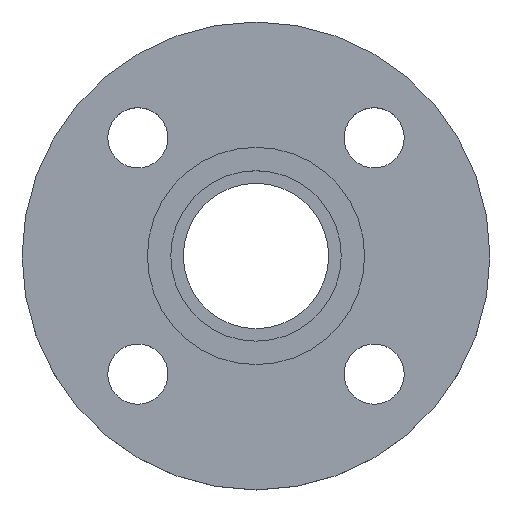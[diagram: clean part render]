
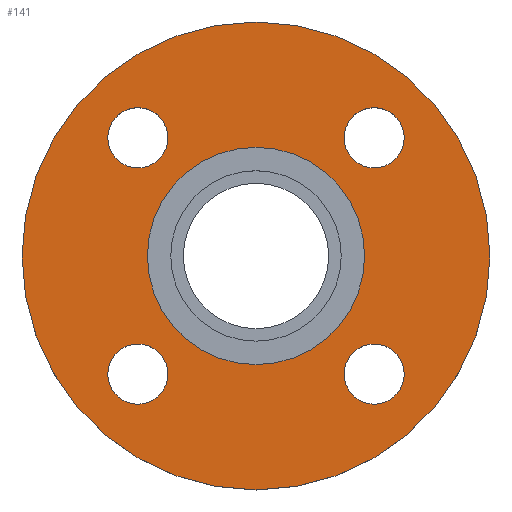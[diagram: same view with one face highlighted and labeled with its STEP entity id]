
A CAD part, top view. The second image highlights one B-rep face of the part: STEP entity #141.
In plain terms, the highlighted planar face has unit normal (0, 0, 1).
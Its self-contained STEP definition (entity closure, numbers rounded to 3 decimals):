
#3 = DIRECTION ( 'NONE',  ( 0., 0., -1. ) ) ;
#10 = PLANE ( 'NONE',  #114 ) ;
#11 = EDGE_CURVE ( 'NONE', #482, #637, #36, .T. ) ;
#12 = VERTEX_POINT ( 'NONE', #260 ) ;
#20 = DIRECTION ( 'NONE',  ( 1., 0., 0. ) ) ;
#23 = CARTESIAN_POINT ( 'NONE',  ( 44.355, -35.355, -4.5 ) ) ;
#32 = VERTEX_POINT ( 'NONE', #45 ) ;
#36 = CIRCLE ( 'NONE', #409, 9. ) ;
#38 = VERTEX_POINT ( 'NONE', #263 ) ;
#43 = DIRECTION ( 'NONE',  ( 1., 0., 0. ) ) ;
#45 = CARTESIAN_POINT ( 'NONE',  ( 70., 0., -4.5 ) ) ;
#51 = CARTESIAN_POINT ( 'NONE',  ( 26.355, 35.355, -4.5 ) ) ;
#53 = EDGE_CURVE ( 'NONE', #32, #12, #370, .T. ) ;
#57 = DIRECTION ( 'NONE',  ( 1., 0., 0. ) ) ;
#59 = FACE_BOUND ( 'NONE', #354, .T. ) ;
#67 = ORIENTED_EDGE ( 'NONE', *, *, #148, .T. ) ;
#71 = ORIENTED_EDGE ( 'NONE', *, *, #450, .F. ) ;
#85 = VERTEX_POINT ( 'NONE', #360 ) ;
#91 = DIRECTION ( 'NONE',  ( 0., 0., -1. ) ) ;
#92 = EDGE_CURVE ( 'NONE', #635, #327, #292, .T. ) ;
#93 = CARTESIAN_POINT ( 'NONE',  ( 0., 0., -4.5 ) ) ;
#104 = EDGE_CURVE ( 'NONE', #470, #38, #270, .T. ) ;
#105 = DIRECTION ( 'NONE',  ( 1., 0., 0. ) ) ;
#107 = CARTESIAN_POINT ( 'NONE',  ( -26.355, -35.355, -4.5 ) ) ;
#110 = FACE_BOUND ( 'NONE', #501, .T. ) ;
#111 = ORIENTED_EDGE ( 'NONE', *, *, #53, .F. ) ;
#114 = AXIS2_PLACEMENT_3D ( 'NONE', #228, #426, #626 ) ;
#117 = CARTESIAN_POINT ( 'NONE',  ( 35.355, -35.355, -4.5 ) ) ;
#120 = VERTEX_POINT ( 'NONE', #221 ) ;
#129 = CARTESIAN_POINT ( 'NONE',  ( -35.355, 35.355, -4.5 ) ) ;
#141 = ADVANCED_FACE ( 'NONE', ( #110, #326, #519, #59, #280, #473 ), #10, .T. ) ;
#148 = EDGE_CURVE ( 'NONE', #327, #635, #305, .T. ) ;
#152 = DIRECTION ( 'NONE',  ( -1., 0., 0. ) ) ;
#154 = AXIS2_PLACEMENT_3D ( 'NONE', #93, #313, #509 ) ;
#157 = DIRECTION ( 'NONE',  ( -1., 0., 0. ) ) ;
#158 = CIRCLE ( 'NONE', #524, 32.5 ) ;
#177 = CARTESIAN_POINT ( 'NONE',  ( 0., 0., -4.5 ) ) ;
#183 = EDGE_LOOP ( 'NONE', ( #195, #584 ) ) ;
#195 = ORIENTED_EDGE ( 'NONE', *, *, #575, .T. ) ;
#211 = AXIS2_PLACEMENT_3D ( 'NONE', #117, #334, #523 ) ;
#220 = DIRECTION ( 'NONE',  ( 1., 0., 0. ) ) ;
#221 = CARTESIAN_POINT ( 'NONE',  ( -44.355, -35.355, -4.5 ) ) ;
#226 = CIRCLE ( 'NONE', #314, 9. ) ;
#228 = CARTESIAN_POINT ( 'NONE',  ( 32.5, 0., -4.5 ) ) ;
#246 = EDGE_CURVE ( 'NONE', #120, #517, #537, .T. ) ;
#254 = CIRCLE ( 'NONE', #329, 70. ) ;
#260 = CARTESIAN_POINT ( 'NONE',  ( -70., 0., -4.5 ) ) ;
#263 = CARTESIAN_POINT ( 'NONE',  ( -44.355, 35.355, -4.5 ) ) ;
#270 = CIRCLE ( 'NONE', #548, 9. ) ;
#280 = FACE_BOUND ( 'NONE', #183, .T. ) ;
#288 = CARTESIAN_POINT ( 'NONE',  ( -35.355, -35.355, -4.5 ) ) ;
#292 = CIRCLE ( 'NONE', #563, 9. ) ;
#299 = CARTESIAN_POINT ( 'NONE',  ( 26.355, -35.355, -4.5 ) ) ;
#305 = CIRCLE ( 'NONE', #211, 9. ) ;
#306 = CIRCLE ( 'NONE', #388, 9. ) ;
#308 = CARTESIAN_POINT ( 'NONE',  ( 35.355, 35.355, -4.5 ) ) ;
#312 = DIRECTION ( 'NONE',  ( 1., 0., 0. ) ) ;
#313 = DIRECTION ( 'NONE',  ( 0., 0., -1. ) ) ;
#314 = AXIS2_PLACEMENT_3D ( 'NONE', #614, #3, #220 ) ;
#324 = CARTESIAN_POINT ( 'NONE',  ( -35.355, -35.355, -4.5 ) ) ;
#326 = FACE_BOUND ( 'NONE', #400, .T. ) ;
#327 = VERTEX_POINT ( 'NONE', #299 ) ;
#329 = AXIS2_PLACEMENT_3D ( 'NONE', #411, #611, #157 ) ;
#334 = DIRECTION ( 'NONE',  ( 0., 0., -1. ) ) ;
#348 = DIRECTION ( 'NONE',  ( 0., 0., -1. ) ) ;
#349 = EDGE_LOOP ( 'NONE', ( #111, #71 ) ) ;
#354 = EDGE_LOOP ( 'NONE', ( #643, #570 ) ) ;
#360 = CARTESIAN_POINT ( 'NONE',  ( 32.5, 0., -4.5 ) ) ;
#370 = CIRCLE ( 'NONE', #660, 70. ) ;
#371 = CARTESIAN_POINT ( 'NONE',  ( -35.355, 35.355, -4.5 ) ) ;
#381 = ORIENTED_EDGE ( 'NONE', *, *, #104, .T. ) ;
#382 = DIRECTION ( 'NONE',  ( 0., 0., -1. ) ) ;
#388 = AXIS2_PLACEMENT_3D ( 'NONE', #129, #348, #538 ) ;
#397 = ORIENTED_EDGE ( 'NONE', *, *, #530, .T. ) ;
#399 = CIRCLE ( 'NONE', #474, 9. ) ;
#400 = EDGE_LOOP ( 'NONE', ( #397, #443 ) ) ;
#406 = CARTESIAN_POINT ( 'NONE',  ( 0., 0., -4.5 ) ) ;
#409 = AXIS2_PLACEMENT_3D ( 'NONE', #308, #504, #43 ) ;
#411 = CARTESIAN_POINT ( 'NONE',  ( 0., 0., -4.5 ) ) ;
#423 = VERTEX_POINT ( 'NONE', #556 ) ;
#426 = DIRECTION ( 'NONE',  ( 0., 0., 1. ) ) ;
#440 = EDGE_CURVE ( 'NONE', #85, #423, #446, .T. ) ;
#443 = ORIENTED_EDGE ( 'NONE', *, *, #246, .T. ) ;
#446 = CIRCLE ( 'NONE', #154, 32.5 ) ;
#450 = EDGE_CURVE ( 'NONE', #12, #32, #254, .T. ) ;
#470 = VERTEX_POINT ( 'NONE', #561 ) ;
#473 = FACE_OUTER_BOUND ( 'NONE', #349, .T. ) ;
#474 = AXIS2_PLACEMENT_3D ( 'NONE', #324, #518, #57 ) ;
#482 = VERTEX_POINT ( 'NONE', #51 ) ;
#483 = DIRECTION ( 'NONE',  ( 0., 0., -1. ) ) ;
#496 = EDGE_LOOP ( 'NONE', ( #381, #597 ) ) ;
#499 = EDGE_CURVE ( 'NONE', #637, #482, #226, .T. ) ;
#501 = EDGE_LOOP ( 'NONE', ( #566, #67 ) ) ;
#504 = DIRECTION ( 'NONE',  ( 0., 0., -1. ) ) ;
#509 = DIRECTION ( 'NONE',  ( -1., 0., 0. ) ) ;
#517 = VERTEX_POINT ( 'NONE', #107 ) ;
#518 = DIRECTION ( 'NONE',  ( 0., 0., -1. ) ) ;
#519 = FACE_BOUND ( 'NONE', #496, .T. ) ;
#523 = DIRECTION ( 'NONE',  ( 1., 0., 0. ) ) ;
#524 = AXIS2_PLACEMENT_3D ( 'NONE', #177, #382, #578 ) ;
#530 = EDGE_CURVE ( 'NONE', #517, #120, #399, .T. ) ;
#537 = CIRCLE ( 'NONE', #615, 9. ) ;
#538 = DIRECTION ( 'NONE',  ( 1., 0., 0. ) ) ;
#548 = AXIS2_PLACEMENT_3D ( 'NONE', #371, #565, #105 ) ;
#555 = CARTESIAN_POINT ( 'NONE',  ( 35.355, -35.355, -4.5 ) ) ;
#556 = CARTESIAN_POINT ( 'NONE',  ( -32.5, 0., -4.5 ) ) ;
#561 = CARTESIAN_POINT ( 'NONE',  ( -26.355, 35.355, -4.5 ) ) ;
#563 = AXIS2_PLACEMENT_3D ( 'NONE', #555, #91, #312 ) ;
#565 = DIRECTION ( 'NONE',  ( 0., 0., -1. ) ) ;
#566 = ORIENTED_EDGE ( 'NONE', *, *, #92, .T. ) ;
#570 = ORIENTED_EDGE ( 'NONE', *, *, #11, .T. ) ;
#575 = EDGE_CURVE ( 'NONE', #423, #85, #158, .T. ) ;
#578 = DIRECTION ( 'NONE',  ( -1., 0., 0. ) ) ;
#584 = ORIENTED_EDGE ( 'NONE', *, *, #440, .T. ) ;
#586 = CARTESIAN_POINT ( 'NONE',  ( 44.355, 35.355, -4.5 ) ) ;
#597 = ORIENTED_EDGE ( 'NONE', *, *, #645, .T. ) ;
#606 = DIRECTION ( 'NONE',  ( 0., 0., -1. ) ) ;
#611 = DIRECTION ( 'NONE',  ( 0., 0., -1. ) ) ;
#614 = CARTESIAN_POINT ( 'NONE',  ( 35.355, 35.355, -4.5 ) ) ;
#615 = AXIS2_PLACEMENT_3D ( 'NONE', #288, #483, #20 ) ;
#626 = DIRECTION ( 'NONE',  ( 1., 0., 0. ) ) ;
#635 = VERTEX_POINT ( 'NONE', #23 ) ;
#637 = VERTEX_POINT ( 'NONE', #586 ) ;
#643 = ORIENTED_EDGE ( 'NONE', *, *, #499, .T. ) ;
#645 = EDGE_CURVE ( 'NONE', #38, #470, #306, .T. ) ;
#660 = AXIS2_PLACEMENT_3D ( 'NONE', #406, #606, #152 ) ;
